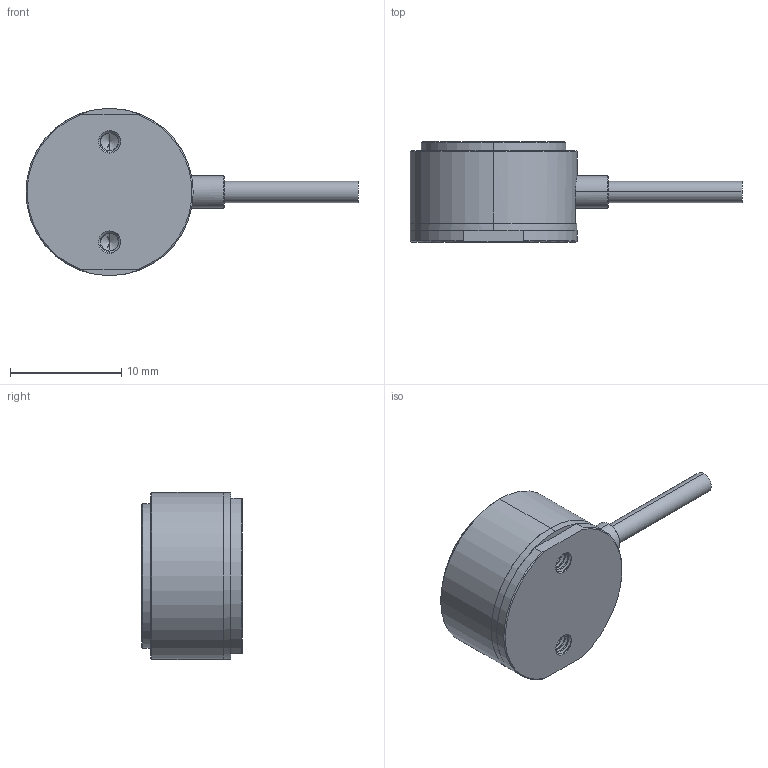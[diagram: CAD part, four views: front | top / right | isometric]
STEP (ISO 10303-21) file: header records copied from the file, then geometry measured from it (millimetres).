
FILE_DESCRIPTION (( 'STEP AP203' ), '1' );
FILE_NAME ('FCFK-20N-眒瞄勤.STEP', '2024-07-16T08:19:08', ( '' ), ( '' ), 'SwSTEP 2.0', 'SolidWorks 2019', '' );
FILE_SCHEMA (( 'CONFIG_CONTROL_DESIGN' ));
Length unit declared in the file: millimetre
Products named in the file (1): FCFK-20N-眒瞄勤
Bounding box: 29.8 x 9 x 15 mm (x, y, z)
Volume: 1515.1 mm3; surface area: 1437.9 mm2
Topology: 1 solids, 1 shells, 117 faces, 308 edges, 190 vertices
Faces by surface type: cylinder 55, cone 30, plane 20, bspline 12
Entity records: 8103 total; most frequent: CARTESIAN_POINT 5474, ORIENTED_EDGE 600, DIRECTION 474, EDGE_CURVE 300, VERTEX_POINT 190, AXIS2_PLACEMENT_3D 180, EDGE_LOOP 124, ADVANCED_FACE 117
